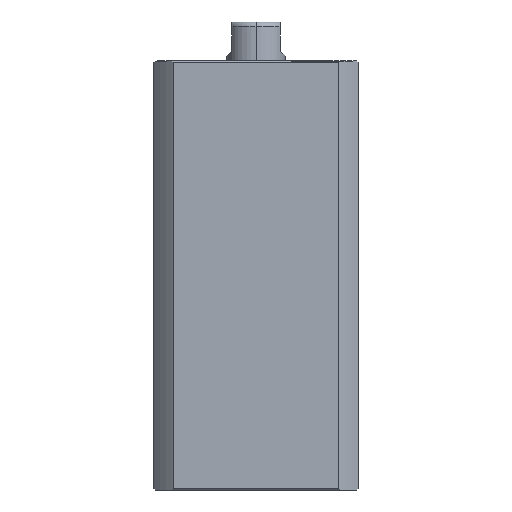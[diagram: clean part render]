
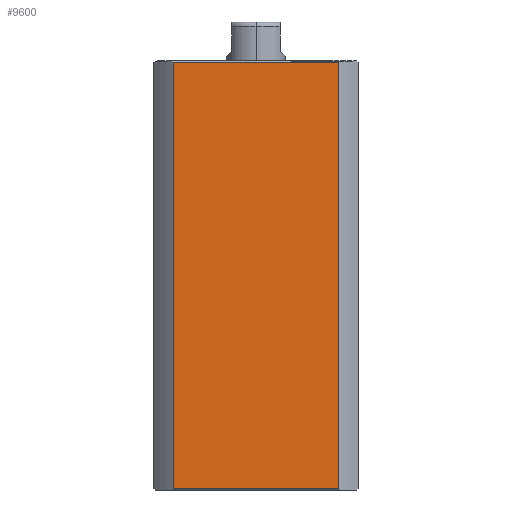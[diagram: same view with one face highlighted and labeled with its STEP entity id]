
A CAD part, left-side view. The second image highlights one B-rep face of the part: STEP entity #9600.
In plain terms, the highlighted planar face has unit normal (-1, 0, 0).
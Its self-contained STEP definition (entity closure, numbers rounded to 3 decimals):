
#180 = CARTESIAN_POINT ( 'NONE',  ( -21., 16.971, -92. ) ) ;
#610 = CARTESIAN_POINT ( 'NONE',  ( -21., 21., 88. ) ) ;
#1044 = FACE_OUTER_BOUND ( 'NONE', #5407, .T. ) ;
#1499 = CARTESIAN_POINT ( 'NONE',  ( -21., 21., 87.7 ) ) ;
#1552 = DIRECTION ( 'NONE',  ( 0., 1., 0. ) ) ;
#1616 = VECTOR ( 'NONE', #7483, 1000. ) ;
#1764 = EDGE_CURVE ( 'NONE', #7155, #8916, #3981, .T. ) ;
#1789 = CARTESIAN_POINT ( 'NONE',  ( -21., -16.971, 87.7 ) ) ;
#2212 = LINE ( 'NONE', #6638, #6697 ) ;
#2401 = DIRECTION ( 'NONE',  ( 0., 1., 0. ) ) ;
#2665 = VERTEX_POINT ( 'NONE', #1789 ) ;
#3226 = CARTESIAN_POINT ( 'NONE',  ( -21., 16.971, 0.3 ) ) ;
#3847 = ORIENTED_EDGE ( 'NONE', *, *, #11370, .F. ) ;
#3981 = LINE ( 'NONE', #7841, #1616 ) ;
#5111 = PLANE ( 'NONE',  #7890 ) ;
#5200 = CARTESIAN_POINT ( 'NONE',  ( -21., -16.971, 0.3 ) ) ;
#5407 = EDGE_LOOP ( 'NONE', ( #3847, #11266, #11562, #8580 ) ) ;
#5595 = DIRECTION ( 'NONE',  ( 0., 0., 1. ) ) ;
#6638 = CARTESIAN_POINT ( 'NONE',  ( -21., -16.971, -92. ) ) ;
#6697 = VECTOR ( 'NONE', #10198, 1000. ) ;
#6910 = DIRECTION ( 'NONE',  ( 1., 0., 0. ) ) ;
#7155 = VERTEX_POINT ( 'NONE', #3226 ) ;
#7183 = CARTESIAN_POINT ( 'NONE',  ( -21., 16.971, 87.7 ) ) ;
#7483 = DIRECTION ( 'NONE',  ( 0., -1., 0. ) ) ;
#7500 = EDGE_CURVE ( 'NONE', #2665, #8916, #2212, .T. ) ;
#7841 = CARTESIAN_POINT ( 'NONE',  ( -21., 21., 0.3 ) ) ;
#7890 = AXIS2_PLACEMENT_3D ( 'NONE', #610, #6910, #1552 ) ;
#8580 = ORIENTED_EDGE ( 'NONE', *, *, #11625, .T. ) ;
#8730 = VECTOR ( 'NONE', #2401, 1000. ) ;
#8916 = VERTEX_POINT ( 'NONE', #5200 ) ;
#8998 = LINE ( 'NONE', #1499, #8730 ) ;
#9024 = VERTEX_POINT ( 'NONE', #7183 ) ;
#9600 = ADVANCED_FACE ( 'NONE', ( #1044 ), #5111, .F. ) ;
#9838 = VECTOR ( 'NONE', #5595, 1000. ) ;
#10198 = DIRECTION ( 'NONE',  ( 0., 0., -1. ) ) ;
#10404 = LINE ( 'NONE', #180, #9838 ) ;
#11266 = ORIENTED_EDGE ( 'NONE', *, *, #1764, .T. ) ;
#11370 = EDGE_CURVE ( 'NONE', #7155, #9024, #10404, .T. ) ;
#11562 = ORIENTED_EDGE ( 'NONE', *, *, #7500, .F. ) ;
#11625 = EDGE_CURVE ( 'NONE', #2665, #9024, #8998, .T. ) ;
